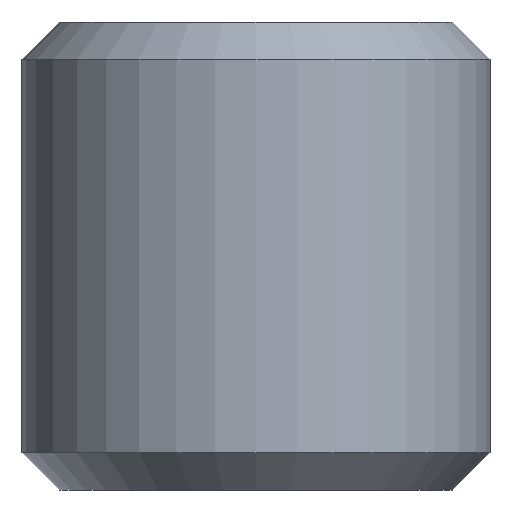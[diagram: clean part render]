
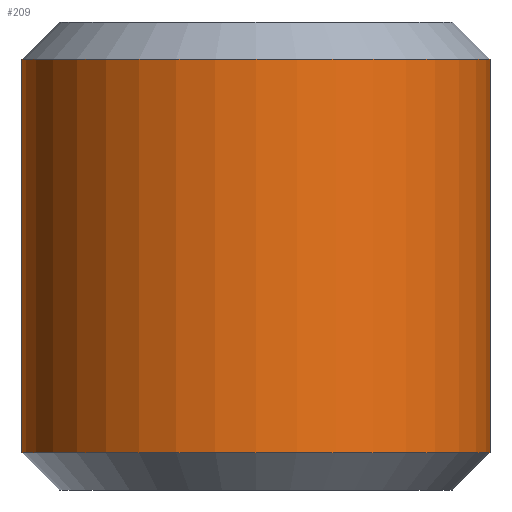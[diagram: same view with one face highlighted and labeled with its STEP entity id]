
A CAD part, left-side view. The second image highlights one B-rep face of the part: STEP entity #209.
In plain terms, the highlighted cylindrical face has radius 2.5 mm (diameter 5 mm), a partial arc.
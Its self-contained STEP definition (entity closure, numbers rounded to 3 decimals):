
#15=CYLINDRICAL_SURFACE('',#250,2.5);
#19=CIRCLE('',#248,2.5);
#21=CIRCLE('',#251,2.5);
#33=FACE_OUTER_BOUND('',#47,.T.);
#47=EDGE_LOOP('',(#157,#158,#159,#160));
#65=LINE('',#357,#85);
#66=LINE('',#360,#86);
#85=VECTOR('',#292,10.);
#86=VECTOR('',#295,10.);
#99=VERTEX_POINT('',#335);
#104=VERTEX_POINT('',#348);
#105=VERTEX_POINT('',#356);
#106=VERTEX_POINT('',#358);
#123=EDGE_CURVE('',#99,#104,#19,.T.);
#125=EDGE_CURVE('',#105,#99,#65,.T.);
#126=EDGE_CURVE('',#106,#105,#21,.T.);
#127=EDGE_CURVE('',#104,#106,#66,.T.);
#157=ORIENTED_EDGE('',*,*,#123,.F.);
#158=ORIENTED_EDGE('',*,*,#125,.F.);
#159=ORIENTED_EDGE('',*,*,#126,.F.);
#160=ORIENTED_EDGE('',*,*,#127,.F.);
#209=ADVANCED_FACE('',(#33),#15,.T.);
#248=AXIS2_PLACEMENT_3D('',#353,#286,#287);
#250=AXIS2_PLACEMENT_3D('',#355,#290,#291);
#251=AXIS2_PLACEMENT_3D('',#359,#293,#294);
#286=DIRECTION('center_axis',(0.,0.,-1.));
#287=DIRECTION('ref_axis',(0.,1.,0.));
#290=DIRECTION('center_axis',(0.,0.,1.));
#291=DIRECTION('ref_axis',(0.,1.,0.));
#292=DIRECTION('',(0.,0.,-1.));
#293=DIRECTION('center_axis',(0.,0.,1.));
#294=DIRECTION('ref_axis',(0.,1.,0.));
#295=DIRECTION('',(0.,0.,1.));
#335=CARTESIAN_POINT('',(-4.5,-2.5,-2.1));
#348=CARTESIAN_POINT('',(-4.5,2.5,-2.1));
#353=CARTESIAN_POINT('Origin',(-4.5,0.,-2.1));
#355=CARTESIAN_POINT('Origin',(-4.5,0.,0.));
#356=CARTESIAN_POINT('',(-4.5,-2.5,2.1));
#357=CARTESIAN_POINT('',(-4.5,-2.5,0.));
#358=CARTESIAN_POINT('',(-4.5,2.5,2.1));
#359=CARTESIAN_POINT('Origin',(-4.5,0.,2.1));
#360=CARTESIAN_POINT('',(-4.5,2.5,0.));
